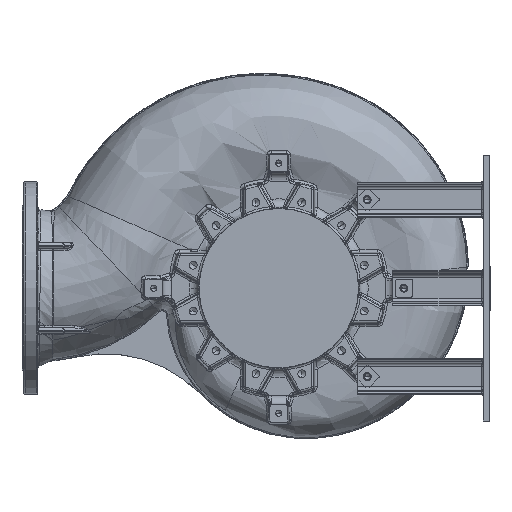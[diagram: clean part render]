
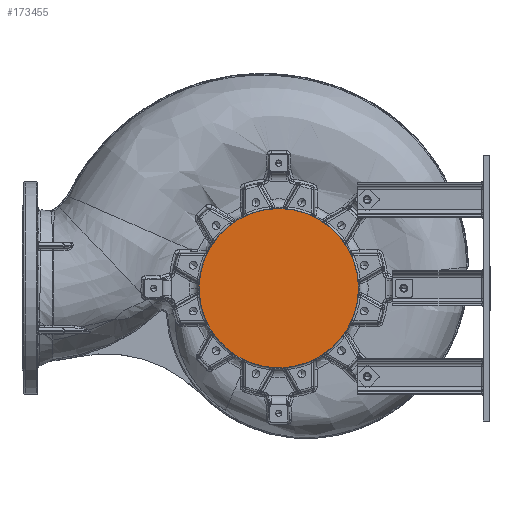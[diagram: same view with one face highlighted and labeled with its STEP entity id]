
A CAD part, left-side view. The second image highlights one B-rep face of the part: STEP entity #173455.
In plain terms, the highlighted planar face has unit normal (-1, 0, 0).
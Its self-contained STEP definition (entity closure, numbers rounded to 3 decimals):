
#2391 = DIRECTION ( 'NONE',  ( 1., 0., 0. ) ) ;
#3461 = CARTESIAN_POINT ( 'NONE',  ( -623.5, -180., 0. ) ) ;
#7685 = AXIS2_PLACEMENT_3D ( 'NONE', #86609, #2391, #100710 ) ;
#10909 = PLANE ( 'NONE',  #180021 ) ;
#17586 = CARTESIAN_POINT ( 'NONE',  ( -623.5, 180., 0. ) ) ;
#25681 = CARTESIAN_POINT ( 'NONE',  ( -623.5, 0., 0. ) ) ;
#32348 = FACE_OUTER_BOUND ( 'NONE', #127927, .T. ) ;
#33946 = DIRECTION ( 'NONE',  ( 1., 0., 0. ) ) ;
#36746 = VERTEX_POINT ( 'NONE', #17586 ) ;
#39869 = DIRECTION ( 'NONE',  ( 0., -1., 0. ) ) ;
#46133 = CIRCLE ( 'NONE', #74661, 180. ) ;
#74661 = AXIS2_PLACEMENT_3D ( 'NONE', #118003, #33946, #131977 ) ;
#78104 = VERTEX_POINT ( 'NONE', #3461 ) ;
#86161 = ORIENTED_EDGE ( 'NONE', *, *, #137360, .F. ) ;
#86609 = CARTESIAN_POINT ( 'NONE',  ( -623.5, 0., 0. ) ) ;
#97064 = ORIENTED_EDGE ( 'NONE', *, *, #113221, .F. ) ;
#100710 = DIRECTION ( 'NONE',  ( 0., -1., 0. ) ) ;
#113221 = EDGE_CURVE ( 'NONE', #36746, #78104, #118904, .T. ) ;
#118003 = CARTESIAN_POINT ( 'NONE',  ( -623.5, 0., 0. ) ) ;
#118904 = CIRCLE ( 'NONE', #7685, 180. ) ;
#123784 = DIRECTION ( 'NONE',  ( 1., 0., 0. ) ) ;
#127927 = EDGE_LOOP ( 'NONE', ( #86161, #97064 ) ) ;
#131977 = DIRECTION ( 'NONE',  ( 0., -1., 0. ) ) ;
#137360 = EDGE_CURVE ( 'NONE', #78104, #36746, #46133, .T. ) ;
#173455 = ADVANCED_FACE ( 'NONE', ( #32348 ), #10909, .F. ) ;
#180021 = AXIS2_PLACEMENT_3D ( 'NONE', #25681, #123784, #39869 ) ;
